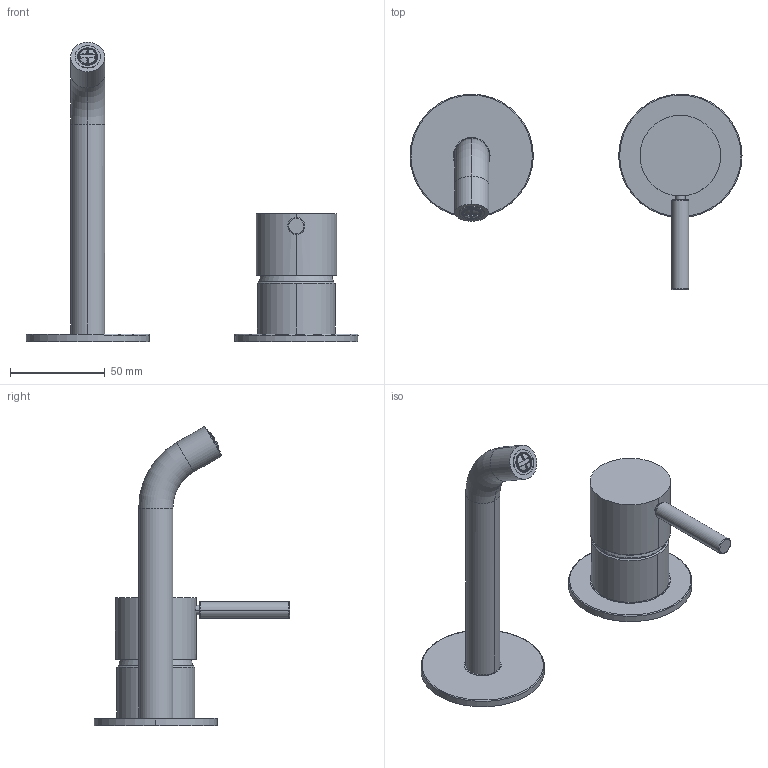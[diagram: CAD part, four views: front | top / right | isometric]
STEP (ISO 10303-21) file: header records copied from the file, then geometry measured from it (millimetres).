
FILE_DESCRIPTION((''),'2;1');
FILE_NAME('PARTE_ESTERNA_SW0002','2025-11-03T10:33:15',('giacomo.molli'),(''),'CREO PARAMETRIC BY PTC INC, 2025010','CREO PARAMETRIC BY PTC INC, 2025010','');
FILE_SCHEMA(('AUTOMOTIVE_DESIGN { 1 0 10303 214 1 1 1 1 }'));
Products named in the file (1): PARTE_ESTERNA_SW0002
Bounding box: 175 x 103.2 x 157.84 mm (x, y, z)
Volume: 93601 mm3; surface area: 48087.6 mm2
Topology: 3 solids, 3 shells, 1842 faces, 5194 edges, 3442 vertices
Faces by surface type: plane 1702, cylinder 78, torus 28, cone 24, bspline 8, sphere 2
Entity records: 72318 total; most frequent: CARTESIAN_POINT 11278, ORIENTED_EDGE 10388, DIRECTION 9301, EDGE_CURVE 5194, VECTOR 4718, LINE 4718, VERTEX_POINT 3442, AXIS2_PLACEMENT_3D 2290
